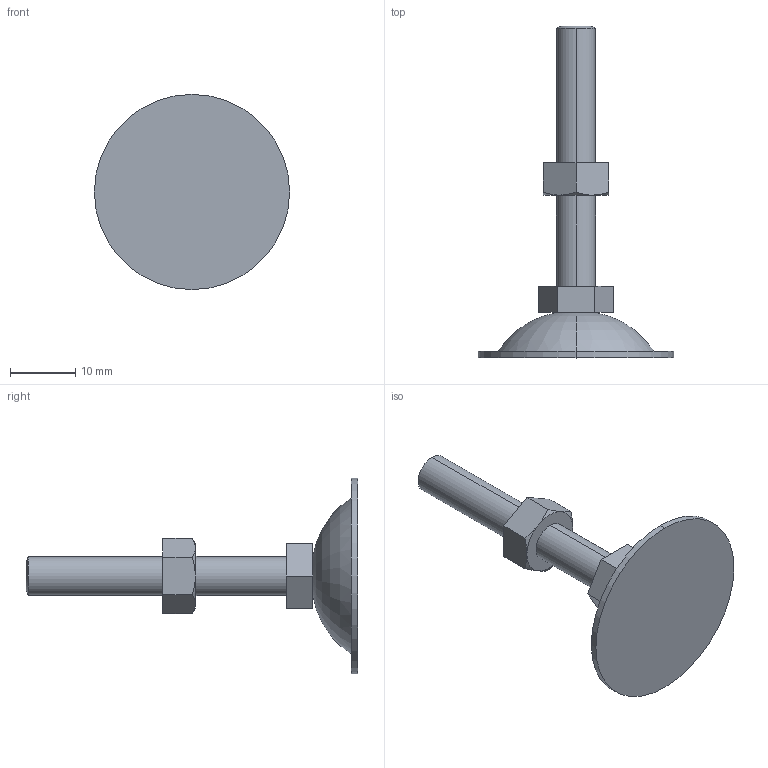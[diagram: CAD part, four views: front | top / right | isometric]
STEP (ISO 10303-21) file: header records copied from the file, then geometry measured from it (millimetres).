
FILE_DESCRIPTION (( 'STEP AP214' ), '1' );
FILE_NAME ('J3LF.step', '2017-05-24T07:45:55', ( 'admin' ), ( '' ), 'SwSTEP 2.0', 'SolidWorks 2014', '' );
FILE_SCHEMA (( 'AUTOMOTIVE_DESIGN' ));
Length unit declared in the file: millimetre
Products named in the file (3): NT06; J3LF
Assembly tree (2 placements, depth 2):
  J3LF
    J3LF
    NT06
Bounding box: 30 x 51 x 30 mm (x, y, z)
Volume: 4099.5 mm3; surface area: 3017.2 mm2
Topology: 2 solids, 2 shells, 43 faces, 92 edges, 56 vertices
Faces by surface type: plane 19, cone 12, cylinder 10, torus 2
Entity records: 1302 total; most frequent: CARTESIAN_POINT 256, DIRECTION 210, ORIENTED_EDGE 184, EDGE_CURVE 92, AXIS2_PLACEMENT_3D 82, VERTEX_POINT 56, EDGE_LOOP 48, LINE 46
